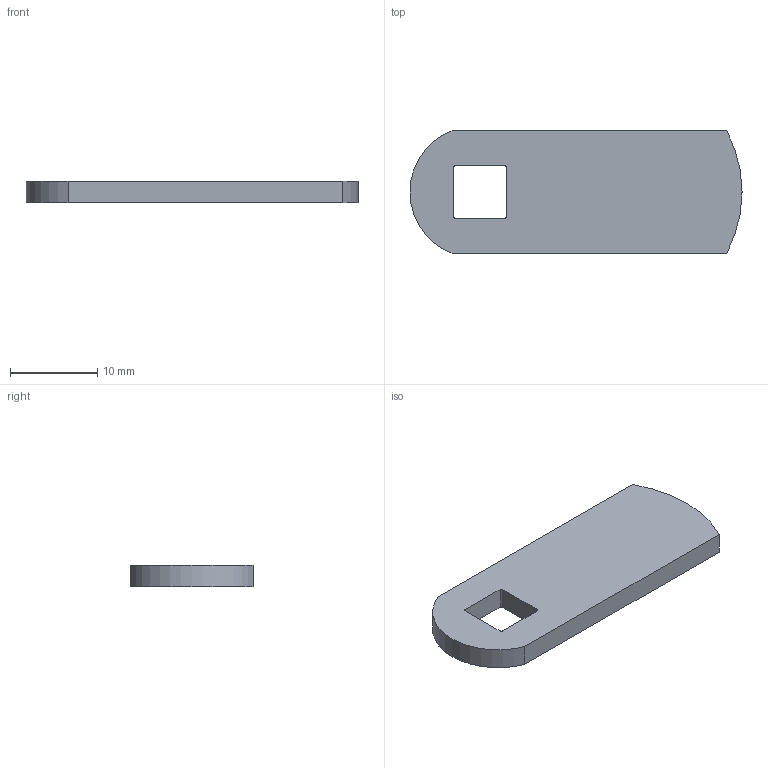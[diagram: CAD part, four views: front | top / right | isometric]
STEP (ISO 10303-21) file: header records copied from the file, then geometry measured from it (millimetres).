
FILE_DESCRIPTION(/* description */ ('Riegel 477'),/* implementation_level */ '2;1');
FILE_NAME(/* name */ 'S:\DWG\Datenaustausch_mit_Kunden\sonstiges_Einzelteile_Baugruppen_von_MLM_HL\1590477.stp',/* time_stamp */ '2016-08-18T09:50:57+02:00',/* author */ ('Wittkämper'),/* organization */ (''),/* preprocessor_version */ 'ST-DEVELOPER v16.1',/* originating_system */ 'Autodesk Inventor 2016',/* authorisation */ '');
FILE_SCHEMA (('AUTOMOTIVE_DESIGN { 1 0 10303 214 3 1 1 }'));
Length unit declared in the file: millimetre
Products named in the file (1): 1590477
Bounding box: 38 x 14 x 2.5 mm (x, y, z)
Volume: 1173.5 mm3; surface area: 1237 mm2
Topology: 1 solids, 1 shells, 14 faces, 36 edges, 24 vertices
Faces by surface type: plane 8, cylinder 6
Entity records: 460 total; most frequent: DIRECTION 78, CARTESIAN_POINT 75, ORIENTED_EDGE 72, EDGE_CURVE 36, AXIS2_PLACEMENT_3D 27, LINE 24, VECTOR 24, VERTEX_POINT 24
